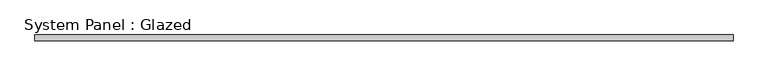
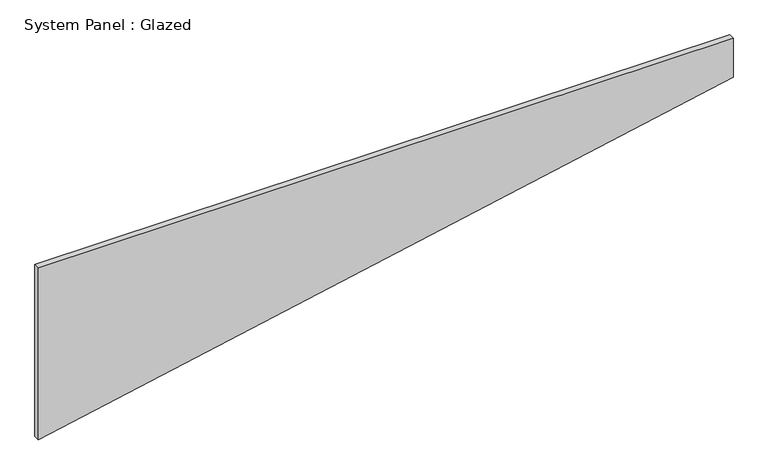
"""IFC4 building model written with IfcOpenShell, lengths in millimetres: plate geometry, System Panel : Glazed."""

from ifc_helpers import new_model, si_unit, frame, origin, place, context, project, spatial, polyline, outline, extrude, source, transform, mapped, element, save


def system_panel_glazed_a8738b8d(model_context):
    return source(origin(), model_context, "Body", "SweptSolid", [
        extrude(outline(polyline([(0.0, -1504.95), (607.2730106, 1504.95), (786.6135896, 1504.95), (786.6135896, -1504.95), (0.0, -1504.95)])), frame((0.0, 19.05, 0.0), z_axis=(0.0, 1.0, 0.0), x_axis=(0.0, 0.0, 1.0)), (0.0, 0.0, 1.0), 25.4),
    ])


if __name__ == "__main__":
    model = new_model("IFC4")
    model_context = context("Model", 3, world=origin())
    ifc_project = project(units=[si_unit("LENGTHUNIT", "METRE", prefix="MILLI")], contexts=[model_context])
    site = spatial("IfcSite", under=ifc_project)
    building = spatial("IfcBuilding", under=site)
    placement = place(None, origin())
    system_panel_glazed_shape = system_panel_glazed_a8738b8d(model_context)
    element("IfcPlate", 1, ObjectType="System Panel : Glazed", at=placement, inside=building, context=model_context, shape_type="MappedRepresentation", body=[
        mapped(system_panel_glazed_shape, transform((0.0, 0.0, 0.0), x_axis=(1.0, 0.0, 0.0), y_axis=(0.0, 1.0, 0.0), z_axis=(0.0, 0.0, 1.0))),
    ])
    save(model, "model.ifc")
